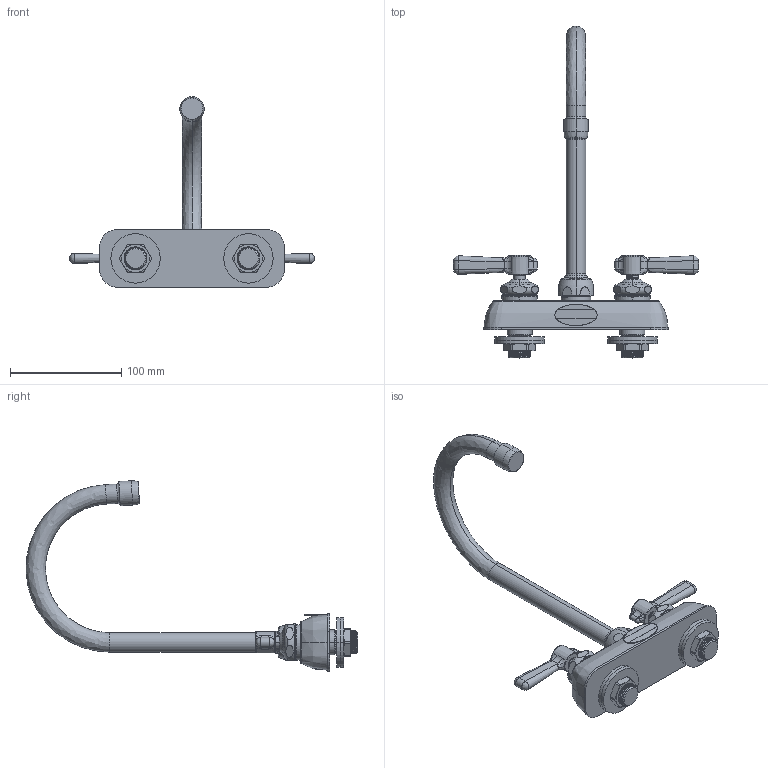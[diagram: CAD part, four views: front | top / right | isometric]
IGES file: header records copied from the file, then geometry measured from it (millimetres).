
Start section:  PTC IGES file: w4d-gn2ae35-369abcp_REV090512.igs
Global section: file name: w4d-gn2ae35-369abcp_REV090512.igs; native system: Pro/ENGINEER by Parametric Technology Corporation; preprocessor: 2011330; author: sdmitruk; organization: Unknown; date: 20120907.085232; units: inch
Bounding box: 220.47 x 298.52 x 171.26 mm (x, y, z)
Surface area: 91302.5 mm2 (no closed solid volume)
Topology: 0 solids, 0 shells, 459 faces, 3694 edges, 4988 vertices
Faces by surface type: revolution 242, bspline 217
